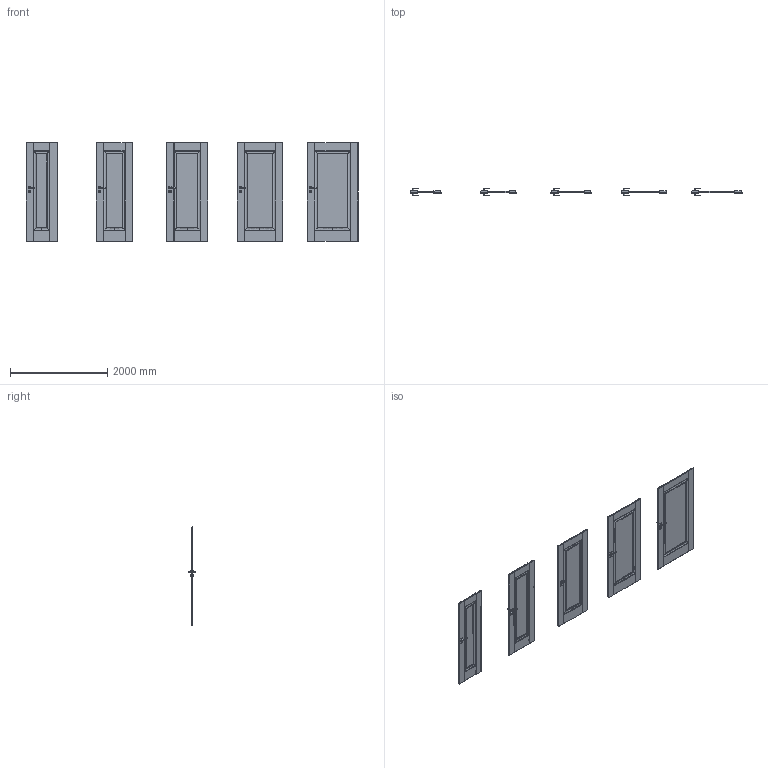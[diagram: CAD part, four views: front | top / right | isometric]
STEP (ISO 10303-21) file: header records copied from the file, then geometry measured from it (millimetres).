
FILE_DESCRIPTION(/* description */ (''),/* implementation_level */ '2;1');
FILE_NAME(/* name */ '049809_A_2-Skrzydło Inspire model A_ polska norma _PN__ przylgowe..stp',/* time_stamp */ '2024-08-21T13:01:35+02:00',/* author */ (''),/* organization */ (''),/* preprocessor_version */ 'ST-DEVELOPER v16',/* originating_system */ 'SIEMENS PLM Software NX 11.0',/* authorisation */ '');
FILE_SCHEMA (('AUTOMOTIVE_DESIGN { 1 0 10303 214 3 1 1 1 }'));
Products named in the file (1): bkni2BD4327Fk3yg
Bounding box: 6844 x 153.13 x 2030.02 mm (x, y, z)
Volume: 249800477.7 mm3; surface area: 20713186.2 mm2
Topology: 25 solids, 40 shells, 2079 faces, 5322 edges, 3198 vertices
Faces by surface type: plane 1130, cylinder 499, bspline 310, sphere 140
Entity records: 69093 total; most frequent: CARTESIAN_POINT 20813, ORIENTED_EDGE 10364, DIRECTION 9475, EDGE_CURVE 5182, LINE 3443, VECTOR 3443, VERTEX_POINT 3198, AXIS2_PLACEMENT_3D 3016
